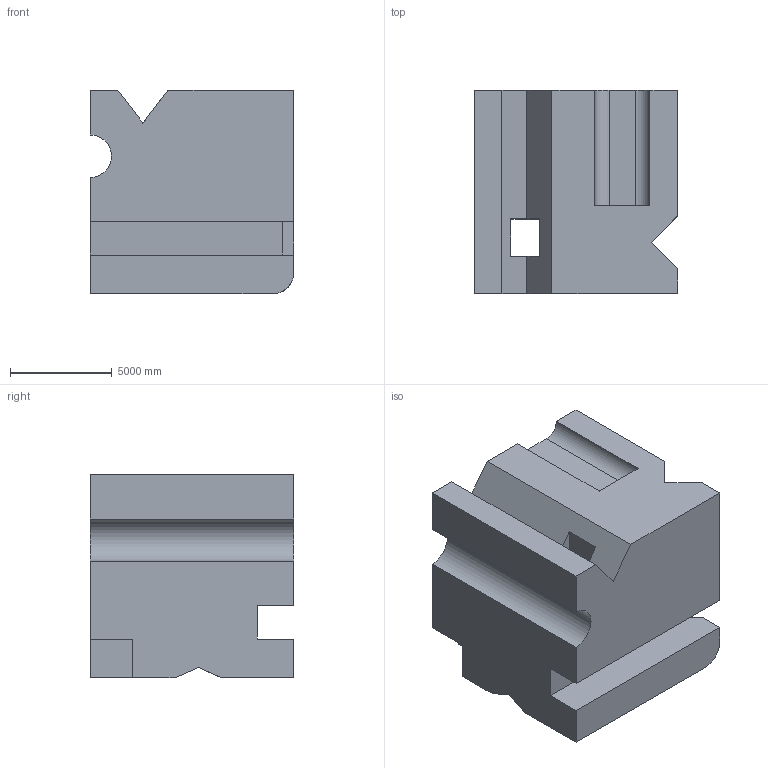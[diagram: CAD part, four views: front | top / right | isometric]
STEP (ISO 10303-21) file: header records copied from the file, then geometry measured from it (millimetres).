
FILE_DESCRIPTION (( 'STEP AP203' ), '1' );
FILE_NAME ('863.STEP', '2022-07-29T13:48:38', ( 'user' ), ( '' ), 'SwSTEP 2.0', 'SolidWorks 2021', '' );
FILE_SCHEMA (( 'CONFIG_CONTROL_DESIGN' ));
Length unit declared in the file: centimetre
Products named in the file (1): 863
Bounding box: 10000 x 10000 x 10000 mm (x, y, z)
Volume: 870502515563.2 mm3; surface area: 710437363.4 mm2
Topology: 1 solids, 1 shells, 35 faces, 105 edges, 70 vertices
Faces by surface type: plane 30, cylinder 5
Entity records: 1248 total; most frequent: CARTESIAN_POINT 223, ORIENTED_EDGE 210, DIRECTION 181, EDGE_CURVE 105, VECTOR 93, LINE 93, VERTEX_POINT 70, AXIS2_PLACEMENT_3D 44
